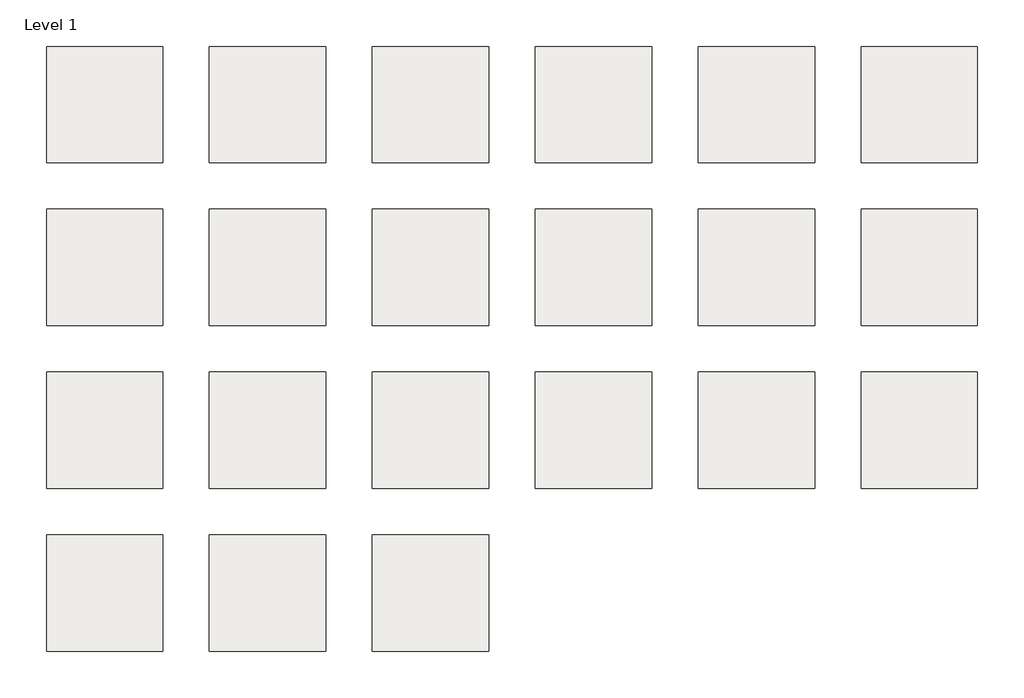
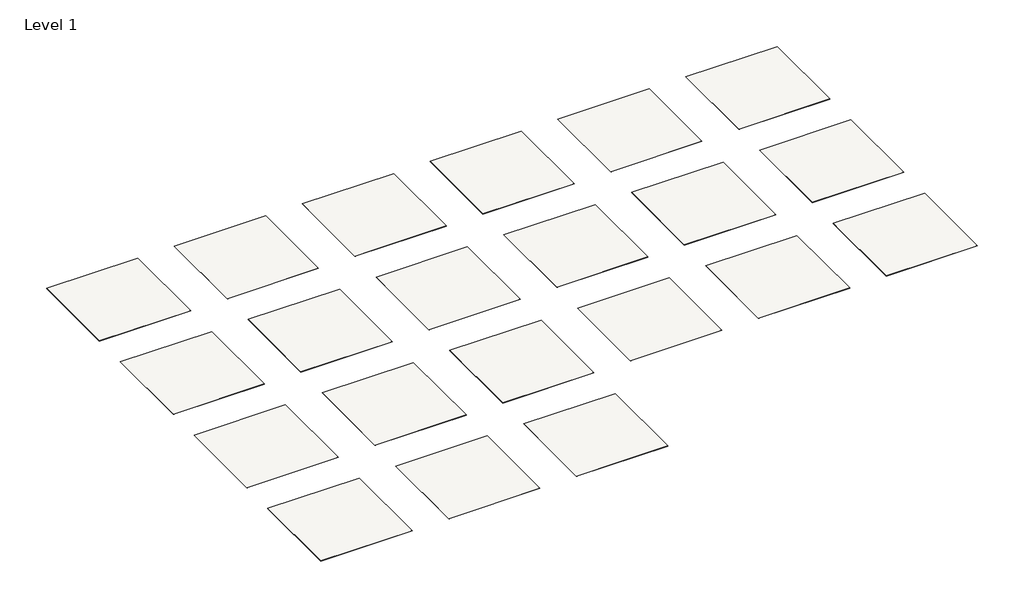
# One storey: 21 slabs.
"""IFC4 building model written with IfcOpenShell, lengths in millimetres."""

from ifc_helpers import new_model, si_unit, frame, origin, place, context, project, spatial, polyline, outline, extrude, element, save

model = new_model("IFC4")

# Units and contexts
model_context = context("Model", 3, world=origin())
ifc_project = project(units=[si_unit("LENGTHUNIT", "METRE", prefix="MILLI")], contexts=[model_context])

# Site, building, storey
site = spatial("IfcSite", under=ifc_project)
building = spatial("IfcBuilding", under=site)
storey = spatial("IfcBuildingStorey", under=building, Name="Level 1", Elevation=0.0)

# Slabs
placement = place(None, origin())
element("IfcSlab", 1, ObjectType="Armstrong Flooring®_Luxury Vinyl Tile - LVT_L7127_Essex", at=placement, inside=storey, context=model_context, shape_type="SweptSolid", body=[
    extrude(outline(polyline([(1219.2, 6400.8), (1219.2, 4876.8), (-304.8, 4876.8), (-304.8, 6400.8), (1219.2, 6400.8)])), frame((0.0, 0.0, -3.175), z_axis=(0.0, 0.0, 1.0), x_axis=(1.0, 0.0, 0.0)), (0.0, 0.0, 1.0), 3.175),
])
element("IfcSlab", 2, ObjectType="Armstrong Flooring®_Luxury Vinyl Tile - LVT_L7132_Midsummer", at=placement, inside=storey, context=model_context, shape_type="SweptSolid", body=[
    extrude(outline(polyline([(3352.8, 6400.8), (3352.8, 4876.8), (1828.8, 4876.8), (1828.8, 6400.8), (3352.8, 6400.8)])), frame((0.0, 0.0, -3.175), z_axis=(0.0, 0.0, 1.0), x_axis=(1.0, 0.0, 0.0)), (0.0, 0.0, 1.0), 3.175),
])
element("IfcSlab", 3, ObjectType="Armstrong Flooring®_Luxury Vinyl Tile - LVT_L7133_Polar night", at=placement, inside=storey, context=model_context, shape_type="SweptSolid", body=[
    extrude(outline(polyline([(5486.4, 6400.8), (5486.4, 4876.8), (3962.4, 4876.8), (3962.4, 6400.8), (5486.4, 6400.8)])), frame((0.0, 0.0, -3.175), z_axis=(0.0, 0.0, 1.0), x_axis=(1.0, 0.0, 0.0)), (0.0, 0.0, 1.0), 3.175),
])
element("IfcSlab", 4, ObjectType="Armstrong Flooring®_Luxury Vinyl Tile - LVT_L7125_Nutmeg", at=placement, inside=storey, context=model_context, shape_type="SweptSolid", body=[
    extrude(outline(polyline([(7620.0, 6400.8), (7620.0, 4876.8), (6096.0, 4876.8), (6096.0, 6400.8), (7620.0, 6400.8)])), frame((0.0, 0.0, -3.175), z_axis=(0.0, 0.0, 1.0), x_axis=(1.0, 0.0, 0.0)), (0.0, 0.0, 1.0), 3.175),
])
element("IfcSlab", 5, ObjectType="Armstrong Flooring®_Luxury Vinyl Tile - LVT_L7154_Isle of Skye", at=placement, inside=storey, context=model_context, shape_type="SweptSolid", body=[
    extrude(outline(polyline([(9753.6, 6400.8), (9753.6, 4876.8), (8229.6, 4876.8), (8229.6, 6400.8), (9753.6, 6400.8)])), frame((0.0, 0.0, -3.175), z_axis=(0.0, 0.0, 1.0), x_axis=(1.0, 0.0, 0.0)), (0.0, 0.0, 1.0), 3.175),
])
element("IfcSlab", 6, ObjectType="Armstrong Flooring®_Luxury Vinyl Tile - LVT_L7251_Natterhorn", at=placement, inside=storey, context=model_context, shape_type="SweptSolid", body=[
    extrude(outline(polyline([(11887.2, 6400.8), (11887.2, 4876.8), (10363.2, 4876.8), (10363.2, 6400.8), (11887.2, 6400.8)])), frame((0.0, 0.0, -3.175), z_axis=(0.0, 0.0, 1.0), x_axis=(1.0, 0.0, 0.0)), (0.0, 0.0, 1.0), 3.175),
])
element("IfcSlab", 7, ObjectType="Armstrong Flooring®_Luxury Vinyl Tile - LVT_L7252_Kilimanjaro", at=placement, inside=storey, context=model_context, shape_type="SweptSolid", body=[
    extrude(outline(polyline([(1219.2, 4267.2), (1219.2, 2743.2), (-304.8, 2743.2), (-304.8, 4267.2), (1219.2, 4267.2)])), frame((0.0, 0.0, -3.175), z_axis=(0.0, 0.0, 1.0), x_axis=(1.0, 0.0, 0.0)), (0.0, 0.0, 1.0), 3.175),
])
element("IfcSlab", 8, ObjectType="Armstrong Flooring®_Luxury Vinyl Tile - LVT_L7253_Uluru", at=placement, inside=storey, context=model_context, shape_type="SweptSolid", body=[
    extrude(outline(polyline([(3352.8, 4267.2), (3352.8, 2743.2), (1828.8, 2743.2), (1828.8, 4267.2), (3352.8, 4267.2)])), frame((0.0, 0.0, -3.175), z_axis=(0.0, 0.0, 1.0), x_axis=(1.0, 0.0, 0.0)), (0.0, 0.0, 1.0), 3.175),
])
element("IfcSlab", 9, ObjectType="Armstrong Flooring®_Luxury Vinyl Tile - LVT_L7140_Fog", at=placement, inside=storey, context=model_context, shape_type="SweptSolid", body=[
    extrude(outline(polyline([(5486.4, 4267.2), (5486.4, 2743.2), (3962.4, 2743.2), (3962.4, 4267.2), (5486.4, 4267.2)])), frame((0.0, 0.0, -3.175), z_axis=(0.0, 0.0, 1.0), x_axis=(1.0, 0.0, 0.0)), (0.0, 0.0, 1.0), 3.175),
])
element("IfcSlab", 10, ObjectType="Armstrong Flooring®_Luxury Vinyl Tile - LVT_L7273_Arabica", at=placement, inside=storey, context=model_context, shape_type="SweptSolid", body=[
    extrude(outline(polyline([(7620.0, 4267.2), (7620.0, 2743.2), (6096.0, 2743.2), (6096.0, 4267.2), (7620.0, 4267.2)])), frame((0.0, 0.0, -3.175), z_axis=(0.0, 0.0, 1.0), x_axis=(1.0, 0.0, 0.0)), (0.0, 0.0, 1.0), 3.175),
])
element("IfcSlab", 11, ObjectType="Armstrong Flooring®_Luxury Vinyl Tile - LVT_L7331_Mortar", at=placement, inside=storey, context=model_context, shape_type="SweptSolid", body=[
    extrude(outline(polyline([(9753.6, 4267.2), (9753.6, 2743.2), (8229.6, 2743.2), (8229.6, 4267.2), (9753.6, 4267.2)])), frame((0.0, 0.0, -3.175), z_axis=(0.0, 0.0, 1.0), x_axis=(1.0, 0.0, 0.0)), (0.0, 0.0, 1.0), 3.175),
])
element("IfcSlab", 12, ObjectType="Armstrong Flooring®_Luxury Vinyl Tile - LVT_L7520_Ember", at=placement, inside=storey, context=model_context, shape_type="SweptSolid", body=[
    extrude(outline(polyline([(11887.2, 4267.2), (11887.2, 2743.2), (10363.2, 2743.2), (10363.2, 4267.2), (11887.2, 4267.2)])), frame((0.0, 0.0, -3.175), z_axis=(0.0, 0.0, 1.0), x_axis=(1.0, 0.0, 0.0)), (0.0, 0.0, 1.0), 3.175),
])
element("IfcSlab", 13, ObjectType="Armstrong Flooring®_Luxury Vinyl Tile - LVT_L7539_Harvest", at=placement, inside=storey, context=model_context, shape_type="SweptSolid", body=[
    extrude(outline(polyline([(1219.2, 2133.6), (1219.2, 609.6), (-304.8, 609.6), (-304.8, 2133.6), (1219.2, 2133.6)])), frame((0.0, 0.0, -3.175), z_axis=(0.0, 0.0, 1.0), x_axis=(1.0, 0.0, 0.0)), (0.0, 0.0, 1.0), 3.175),
])
element("IfcSlab", 14, ObjectType="Armstrong Flooring®_Luxury Vinyl Tile - LVT_L7514_Auburn", at=placement, inside=storey, context=model_context, shape_type="SweptSolid", body=[
    extrude(outline(polyline([(3352.8, 2133.6), (3352.8, 609.6), (1828.8, 609.6), (1828.8, 2133.6), (3352.8, 2133.6)])), frame((0.0, 0.0, -3.175), z_axis=(0.0, 0.0, 1.0), x_axis=(1.0, 0.0, 0.0)), (0.0, 0.0, 1.0), 3.175),
])
element("IfcSlab", 15, ObjectType="Armstrong Flooring®_Luxury Vinyl Tile - LVT_L7521_Earthbound", at=placement, inside=storey, context=model_context, shape_type="SweptSolid", body=[
    extrude(outline(polyline([(5486.4, 2133.6), (5486.4, 609.6), (3962.4, 609.6), (3962.4, 2133.6), (5486.4, 2133.6)])), frame((0.0, 0.0, -3.175), z_axis=(0.0, 0.0, 1.0), x_axis=(1.0, 0.0, 0.0)), (0.0, 0.0, 1.0), 3.175),
])
element("IfcSlab", 16, ObjectType="Armstrong Flooring®_Luxury Vinyl Tile - LVT_L7511_Carmelo", at=placement, inside=storey, context=model_context, shape_type="SweptSolid", body=[
    extrude(outline(polyline([(7620.0, 2133.6), (7620.0, 609.6), (6096.0, 609.6), (6096.0, 2133.6), (7620.0, 2133.6)])), frame((0.0, 0.0, -3.175), z_axis=(0.0, 0.0, 1.0), x_axis=(1.0, 0.0, 0.0)), (0.0, 0.0, 1.0), 3.175),
])
element("IfcSlab", 17, ObjectType="Armstrong Flooring®_Luxury Vinyl Tile - LVT_L7519_Dune Wind", at=placement, inside=storey, context=model_context, shape_type="SweptSolid", body=[
    extrude(outline(polyline([(9753.6, 2133.6), (9753.6, 609.6), (8229.6, 609.6), (8229.6, 2133.6), (9753.6, 2133.6)])), frame((0.0, 0.0, -3.175), z_axis=(0.0, 0.0, 1.0), x_axis=(1.0, 0.0, 0.0)), (0.0, 0.0, 1.0), 3.175),
])
element("IfcSlab", 18, ObjectType="Armstrong Flooring®_Luxury Vinyl Tile - LVT_L7510_Flint", at=placement, inside=storey, context=model_context, shape_type="SweptSolid", body=[
    extrude(outline(polyline([(11887.2, 2133.6), (11887.2, 609.6), (10363.2, 609.6), (10363.2, 2133.6), (11887.2, 2133.6)])), frame((0.0, 0.0, -3.175), z_axis=(0.0, 0.0, 1.0), x_axis=(1.0, 0.0, 0.0)), (0.0, 0.0, 1.0), 3.175),
])
element("IfcSlab", 19, ObjectType="Armstrong Flooring®_Luxury Vinyl Tile - LVT_L7518_Rustle", at=placement, inside=storey, context=model_context, shape_type="SweptSolid", body=[
    extrude(outline(polyline([(1219.2, 0.0), (1219.2, -1524.0), (-304.8, -1524.0), (-304.8, 0.0), (1219.2, 0.0)])), frame((0.0, 0.0, -3.175), z_axis=(0.0, 0.0, 1.0), x_axis=(1.0, 0.0, 0.0)), (0.0, 0.0, 1.0), 3.175),
])
element("IfcSlab", 20, ObjectType="Armstrong Flooring®_Luxury Vinyl Tile - LVT_L7522_Light", at=placement, inside=storey, context=model_context, shape_type="SweptSolid", body=[
    extrude(outline(polyline([(3352.8, 0.0), (3352.8, -1524.0), (1828.8, -1524.0), (1828.8, 0.0), (3352.8, 0.0)])), frame((0.0, 0.0, -3.175), z_axis=(0.0, 0.0, 1.0), x_axis=(1.0, 0.0, 0.0)), (0.0, 0.0, 1.0), 3.175),
])
element("IfcSlab", 21, ObjectType="Armstrong Flooring®_Luxury Vinyl Tile - LVT_L7528_Pearl", at=placement, inside=storey, context=model_context, shape_type="SweptSolid", body=[
    extrude(outline(polyline([(5486.4, 0.0), (5486.4, -1524.0), (3962.4, -1524.0), (3962.4, 0.0), (5486.4, 0.0)])), frame((0.0, 0.0, -3.175), z_axis=(0.0, 0.0, 1.0), x_axis=(1.0, 0.0, 0.0)), (0.0, 0.0, 1.0), 3.175),
])

save(model, "model.ifc")
